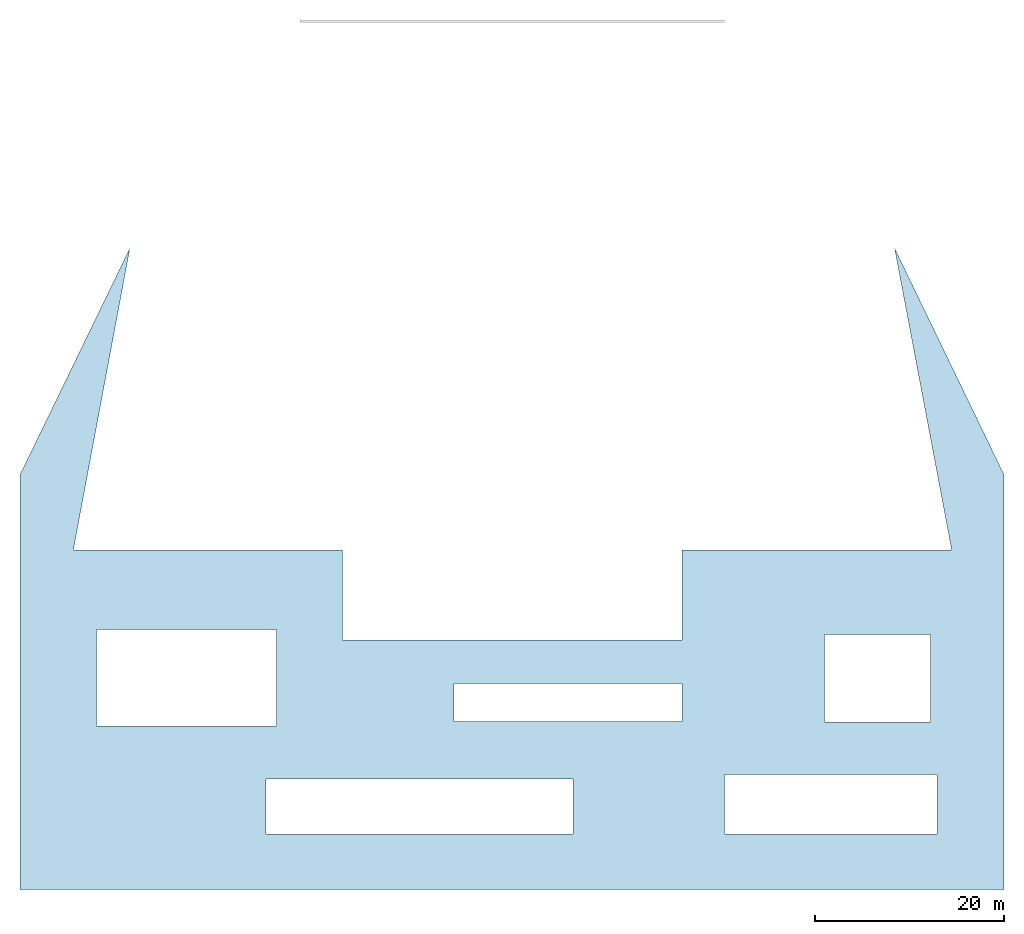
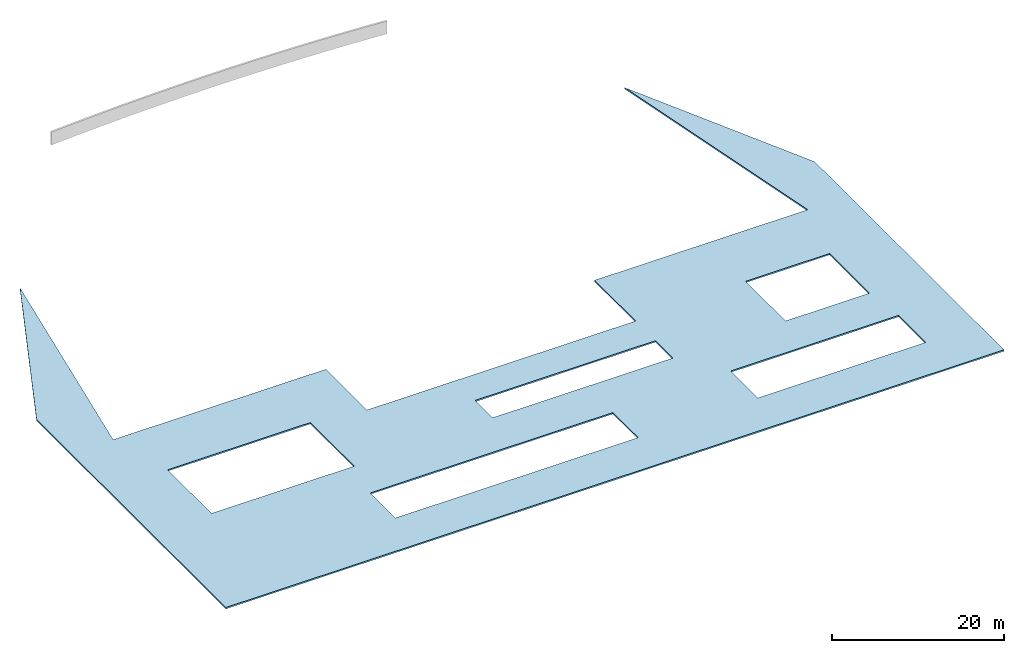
# One storey, incomplete: 1 slab.
"""IFC2X3 building model written with IfcOpenShell, lengths in millimetres."""

from ifc_helpers import new_model, entity, si_unit, converted_unit, derived_unit, direction, frame, origin, place, context, subcontext, project, spatial, polyline, outline, extrude, material, type_object, element, save


model = new_model("IFC2X3")

# Units and contexts
model_context = context("Model", 3, precision=0.01, world=origin(), true_north=direction((6.12303176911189e-17, 1.0)))
body_context = subcontext(model_context, "Body", "Model", "MODEL_VIEW")
ifc_project = project(units=[si_unit("LENGTHUNIT", "METRE", prefix="MILLI"), si_unit("AREAUNIT", "SQUARE_METRE"), si_unit("VOLUMEUNIT", "CUBIC_METRE"), converted_unit("PLANEANGLEUNIT", "DEGREE", entity("IfcRatioMeasure", 0.0174532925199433), si_unit("PLANEANGLEUNIT", "RADIAN"), dimensions=[0, 0, 0, 0, 0, 0, 0]), si_unit("MASSUNIT", "GRAM", prefix="KILO"), derived_unit("MASSDENSITYUNIT", [(si_unit("MASSUNIT", "GRAM", prefix="KILO"), 1), (si_unit("LENGTHUNIT", "METRE"), -3)]), si_unit("TIMEUNIT", "SECOND"), si_unit("FREQUENCYUNIT", "HERTZ"), si_unit("THERMODYNAMICTEMPERATUREUNIT", "DEGREE_CELSIUS"), derived_unit("THERMALTRANSMITTANCEUNIT", [(si_unit("MASSUNIT", "GRAM", prefix="KILO"), 1), (si_unit("THERMODYNAMICTEMPERATUREUNIT", "KELVIN"), -1), (si_unit("TIMEUNIT", "SECOND"), -3)]), derived_unit("VOLUMETRICFLOWRATEUNIT", [(si_unit("LENGTHUNIT", "METRE"), 3), (si_unit("TIMEUNIT", "SECOND"), -1)]), si_unit("ELECTRICCURRENTUNIT", "AMPERE"), si_unit("ELECTRICVOLTAGEUNIT", "VOLT"), si_unit("POWERUNIT", "WATT"), si_unit("FORCEUNIT", "NEWTON", prefix="KILO"), si_unit("ILLUMINANCEUNIT", "LUX"), si_unit("LUMINOUSFLUXUNIT", "LUMEN"), si_unit("LUMINOUSINTENSITYUNIT", "CANDELA"), derived_unit("USERDEFINED", [(si_unit("MASSUNIT", "GRAM", prefix="KILO"), -1), (si_unit("LENGTHUNIT", "METRE"), -2), (si_unit("TIMEUNIT", "SECOND"), 3), (si_unit("LUMINOUSFLUXUNIT", "LUMEN"), 1)]), derived_unit("LINEARVELOCITYUNIT", [(si_unit("LENGTHUNIT", "METRE"), 1), (si_unit("TIMEUNIT", "SECOND"), -1)]), si_unit("PRESSUREUNIT", "PASCAL"), derived_unit("USERDEFINED", [(si_unit("LENGTHUNIT", "METRE"), -2), (si_unit("MASSUNIT", "GRAM", prefix="KILO"), 1), (si_unit("TIMEUNIT", "SECOND"), -2)])], contexts=[model_context])

# Site, building, storey
site_placement = place(None, origin())
site = spatial("IfcSite", under=ifc_project, at=site_placement, Name="Default", CompositionType="ELEMENT")
building_placement = place(site_placement, origin())
building = spatial("IfcBuilding", under=site, at=building_placement, CompositionType="ELEMENT")
storey_placement = place(building_placement, frame((0.0, 0.0, -1000.0)))
storey = spatial("IfcBuildingStorey", under=building, at=storey_placement, Name="-1. Story", CompositionType="ELEMENT", Elevation=-1000.0)

# Slab
ifc_material = material(Name="Paint - Light Gray")
slab_type = type_object("IfcSlabType", Name="SLA - 012", PredefinedType="FLOOR", material=ifc_material)
slab_placement = place(storey_placement, origin())
element("IfcSlab", 1, at=slab_placement, inside=storey, type_object=slab_type, Name="SLA - 012:SLA - 012", ObjectType="SLA - 012:SLA - 012", PredefinedType="FLOOR", context=body_context, shape_type="SweptSolid", body=[
    extrude(outline(polyline([(-52147.0337891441, -35025.924126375), (52104.4024458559, -35025.924126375), (52104.4024458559, 8910.72309252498), (40506.1397180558, 32910.7230925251), (46559.8759771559, 910.723092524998), (18003.6266727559, 910.723092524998), (18003.6266727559, -8608.195829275), (-17996.3733272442, -8608.195829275), (-17996.3733272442, 910.723092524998), (-46496.3733272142, 910.723092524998), (-40498.8863724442, 32910.723092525), (-52147.0337891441, 8893.178263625), (-52147.0337891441, -35025.924126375)]), holes=[polyline([(-44064.5668998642, -7529.11230697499), (-24948.3854062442, -7529.11230697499), (-24948.3854062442, -17708.912655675), (-44064.5668998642, -17708.912655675), (-44064.5668998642, -7529.11230697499)]), polyline([(-26072.8666705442, -23331.318977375), (6464.48736885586, -23331.318977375), (6464.48736885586, -29171.778712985), (-26072.8666705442, -29171.778712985), (-26072.8666705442, -23331.318977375)]), polyline([(-6165.28627874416, -13210.987598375), (18003.6266727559, -13210.987598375), (18003.6266727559, -17259.120149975), (-6165.28627874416, -17259.120149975), (-6165.28627874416, -13210.987598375)]), polyline([(33074.8478332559, -8038.37378247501), (44319.6604765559, -8038.37378247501), (44319.6604765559, -17293.593134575), (33074.8478332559, -17293.593134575), (33074.8478332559, -8038.37378247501)]), polyline([(22504.7239485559, -22881.526471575), (44994.3492351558, -22881.526471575), (44994.3492351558, -29171.778712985), (22504.7239485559, -29171.778712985), (22504.7239485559, -22881.526471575)])]), frame((81005.2302487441, 65892.433808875, 800.0)), (0.0, 0.0, 1.0), 200.0),
])

save(model, "model.ifc")
